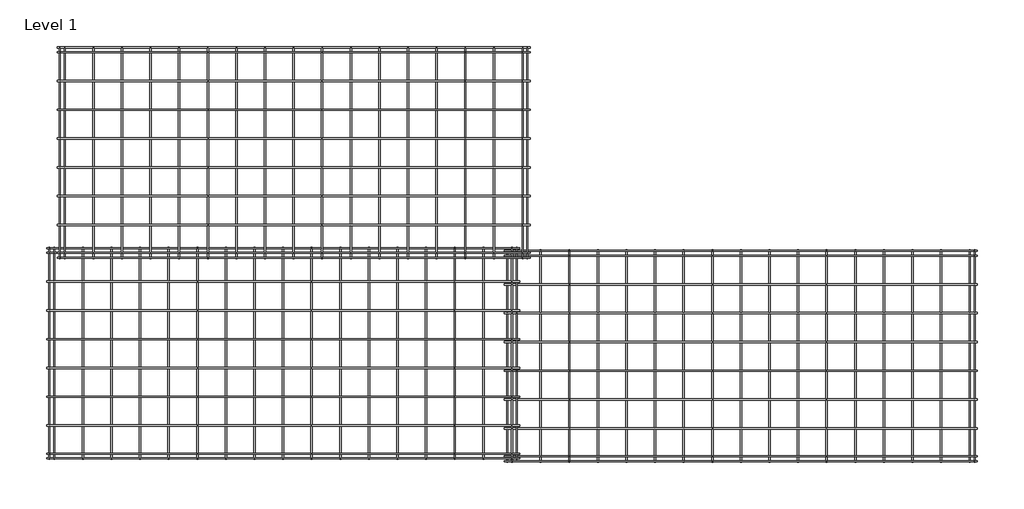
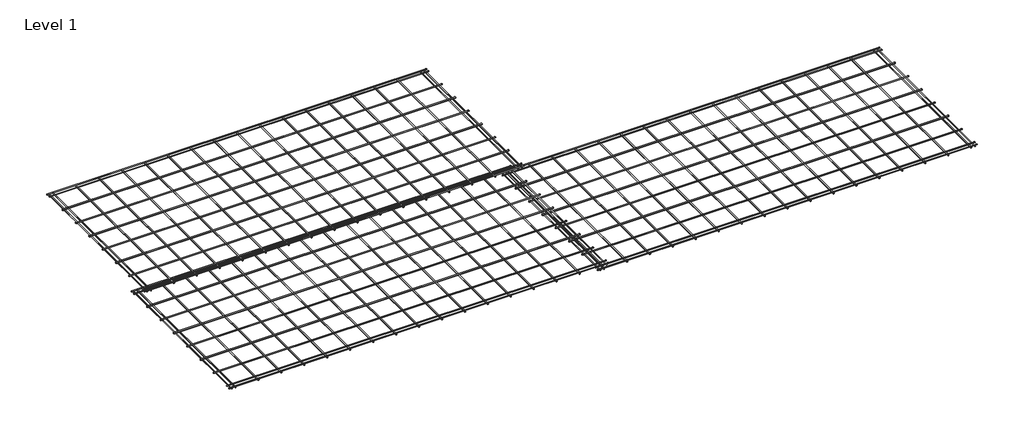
# One storey: 3 proxies.
"""IFC4 building model written with IfcOpenShell, lengths in millimetres."""

import ifcopenshell
import ifcopenshell.guid

model = None  # the IFC model being written
_history = None  # IfcOwnerHistory: only IFC2X3 demands one
_inside = {}  # id of a spatial element -> (the spatial element, [elements in it])
_under = {}  # id of a project, library or spatial element -> (it, [spatial elements below it])
_declared = {}  # id of a project -> (the project, [libraries it declares])
_typed = {}  # id of a type object -> (the type object, [elements of that type])
_made_of = {}  # id of a material, layer set ... -> (it, [elements and type objects made of it])


def new_model(schema):
    """Start an empty IFC model of exactly this schema.

    Asked for "IFC4X3", IfcOpenShell would pick the latest addendum, in which some entities
    have other attributes; the version numbers below select the first issue.
    IFC2X3 requires an IfcOwnerHistory on every rooted entity: one is made here for all.
    """
    global model, _history
    if schema == "IFC4X3":
        model = ifcopenshell.file(schema_version=(4, 3, 0, 0))
    else:
        model = ifcopenshell.file(schema=schema)
    _inside.clear()
    _under.clear()
    _declared.clear()
    _typed.clear()
    _made_of.clear()
    _history = None
    if model.schema == "IFC2X3":
        org = make("IfcOrganization", Name="unknown")
        user = make(
            "IfcPersonAndOrganization",
            ThePerson=make("IfcPerson", FamilyName="unknown"),
            TheOrganization=org,
        )
        app = make(
            "IfcApplication",
            ApplicationDeveloper=org,
            Version="unknown",
            ApplicationFullName="unknown",
            ApplicationIdentifier="unknown",
        )
        _history = make(
            "IfcOwnerHistory",
            OwningUser=user,
            OwningApplication=app,
            ChangeAction="ADDED",
            CreationDate=0,
        )
    return model


def make(cls, **values):
    """One entity of the class cls with the attributes given. An attribute that is None is left unset."""
    return model.create_entity(
        cls, **{name: value for name, value in values.items() if value is not None}
    )


def rooted(cls, **values):
    """An entity with a GlobalId (a new one), such as an element, a storey or a relation."""
    return make(cls, GlobalId=ifcopenshell.guid.new(), OwnerHistory=_history, **values)


def si_unit(unit_type, name, prefix=None):
    """IfcSIUnit, for example si_unit("LENGTHUNIT", "METRE", prefix="MILLI")."""
    return make("IfcSIUnit", UnitType=unit_type, Prefix=prefix, Name=name)


def assignment(units):
    """IfcUnitAssignment: the units of a project."""
    return None if units is None else make("IfcUnitAssignment", Units=units)


def point(xyz):
    """IfcCartesianPoint."""
    return None if xyz is None else make("IfcCartesianPoint", Coordinates=xyz)


def direction(xyz):
    """IfcDirection."""
    return None if xyz is None else make("IfcDirection", DirectionRatios=xyz)


def frame(location, z_axis=None, x_axis=None):
    """IfcAxis2Placement3D, a coordinate frame: its origin and axes. An axis left out is left unset."""
    return make(
        "IfcAxis2Placement3D",
        Location=point(location),
        Axis=direction(z_axis),
        RefDirection=direction(x_axis),
    )


def frame_2d(location, x_axis=None):
    """IfcAxis2Placement2D, a coordinate frame in the plane: its origin and x axis."""
    return make(
        "IfcAxis2Placement2D", Location=point(location), RefDirection=direction(x_axis)
    )


def origin():
    """The frame at (0, 0, 0) with its axes left unset."""
    return frame((0.0, 0.0, 0.0))


def place(relative_to, where):
    """IfcLocalPlacement: puts the frame where relative to a parent placement (None: the world)."""
    return make(
        "IfcLocalPlacement", PlacementRelTo=relative_to, RelativePlacement=where
    )


def context(
    kind, dimensions, precision=None, world=None, true_north=None, identifier=None
):
    """IfcGeometricRepresentationContext, for example the 3D "Model" context."""
    return make(
        "IfcGeometricRepresentationContext",
        ContextIdentifier=identifier,
        ContextType=kind,
        CoordinateSpaceDimension=dimensions,
        Precision=precision,
        WorldCoordinateSystem=world,
        TrueNorth=true_north,
    )


def project(units=None, contexts=None):
    """IfcProject with its units and contexts."""
    return rooted(
        "IfcProject",
        Name="project",
        RepresentationContexts=contexts,
        UnitsInContext=assignment(units),
    )


def spatial(cls, under=None, at=None, **own):
    """A site, building, storey or space (cls), placed at a placement, below another one or the project."""
    s = rooted(cls, ObjectPlacement=at, **own)
    if under is not None:
        _under.setdefault(under.id(), (under, []))[1].append(s)
    return s


def circle_curve(where, radius):
    """IfcCircle in the frame where."""
    return make("IfcCircle", Position=where, Radius=radius)


def trimmed(basis, trim1, trim2, sense, master):
    """IfcTrimmedCurve: the piece of a basis curve between two trims."""
    return make(
        "IfcTrimmedCurve",
        BasisCurve=basis,
        Trim1=trim1,
        Trim2=trim2,
        SenseAgreement=sense,
        MasterRepresentation=master,
    )


def segment(curve, same_sense, transition):
    """IfcCompositeCurveSegment."""
    return make(
        "IfcCompositeCurveSegment",
        Transition=transition,
        SameSense=same_sense,
        ParentCurve=curve,
    )


def composite_curve(segments, self_intersect=None):
    """IfcCompositeCurve: segments joined end to end."""
    return make("IfcCompositeCurve", Segments=segments, SelfIntersect=self_intersect)


def outline(outer, holes=None, kind="AREA"):
    """IfcArbitraryClosedProfileDef: a profile drawn as a closed curve; with holes, ...WithVoids."""
    if holes is None:
        return make("IfcArbitraryClosedProfileDef", ProfileType=kind, OuterCurve=outer)
    return make(
        "IfcArbitraryProfileDefWithVoids",
        ProfileType=kind,
        OuterCurve=outer,
        InnerCurves=holes,
    )


def extrude(swept, where, along, depth):
    """IfcExtrudedAreaSolid: the profile swept, set in the frame where, extruded along a direction by depth."""
    return make(
        "IfcExtrudedAreaSolid",
        SweptArea=swept,
        Position=where,
        ExtrudedDirection=direction(along),
        Depth=depth,
    )


def shape(context_of_items, identifier, shape_type, items):
    """IfcShapeRepresentation: the items that make up one representation, for example the "Body"."""
    return make(
        "IfcShapeRepresentation",
        ContextOfItems=context_of_items,
        RepresentationIdentifier=identifier,
        RepresentationType=shape_type,
        Items=items,
    )


def source(mapping_origin, context_of_items, identifier, shape_type, items):
    """IfcRepresentationMap: a shape defined once, which mapped items show again and again."""
    return make(
        "IfcRepresentationMap",
        MappingOrigin=mapping_origin,
        MappedRepresentation=shape(context_of_items, identifier, shape_type, items),
    )


def transform(
    local_origin,
    x_axis=None,
    y_axis=None,
    z_axis=None,
    scale=None,
    scale2=None,
    scale3=None,
    uniform=True,
):
    """IfcCartesianTransformationOperator3D, or its non-uniform kind. x_axis, y_axis, z_axis: its Axis1, 2, 3."""
    if uniform:
        return make(
            "IfcCartesianTransformationOperator3D",
            Axis1=direction(x_axis),
            Axis2=direction(y_axis),
            LocalOrigin=point(local_origin),
            Scale=scale,
            Axis3=direction(z_axis),
        )
    return make(
        "IfcCartesianTransformationOperator3DnonUniform",
        Axis1=direction(x_axis),
        Axis2=direction(y_axis),
        LocalOrigin=point(local_origin),
        Scale=scale,
        Axis3=direction(z_axis),
        Scale2=scale2,
        Scale3=scale3,
    )


def mapped(mapping_source, mapping_target):
    """IfcMappedItem: shows the shape of a source again, moved by a transform."""
    return make(
        "IfcMappedItem", MappingSource=mapping_source, MappingTarget=mapping_target
    )


def made_of(thing, what):
    """Note that an element or type object is made of a material, layer set ...; save() writes the relation."""
    if what is not None:
        _made_of.setdefault(what.id(), (what, []))[1].append(thing)
    return thing


def element(
    cls,
    number,
    at=None,
    inside=None,
    cuts=None,
    type_object=None,
    material=None,
    context=None,
    identifier="Body",
    shape_type=None,
    held_by="IfcProductDefinitionShape",
    body=None,
    shapes=None,
    **own,
):
    """One element of the class cls, such as IfcWall. Its Tag is "e" and its number.

    at: its placement. inside: the storey or other place that contains it. cuts: it is an
    opening in that element (IfcRelVoidsElement). A single representation is given by context,
    identifier, shape_type and body (its items); several are given by shapes. held_by: the class
    of the entity that holds the representations. save() writes the other relations.
    """
    e = rooted(cls, Tag="e%d" % number, ObjectPlacement=at, **own)
    if body is not None:
        shapes = [shape(context, identifier, shape_type, body)]
    if shapes is not None:
        e.Representation = make(held_by, Representations=shapes)
    if inside is not None:
        _inside.setdefault(inside.id(), (inside, []))[1].append(e)
    if cuts is not None:
        rooted(
            "IfcRelVoidsElement", RelatingBuildingElement=cuts, RelatedOpeningElement=e
        )
    if type_object is not None:
        _typed.setdefault(type_object.id(), (type_object, []))[1].append(e)
    return made_of(e, material)


def aggregate(whole, parts):
    """IfcRelAggregates: a whole, such as a stair, and the parts it consists of."""
    return rooted("IfcRelAggregates", RelatingObject=whole, RelatedObjects=parts)


def save(model, path):
    """Write the relations noted so far, then the file.

    IfcRelAggregates (storeys below a building ...), IfcRelContainedInSpatialStructure (elements
    in a storey), IfcRelDefinesByType, IfcRelAssociatesMaterial and IfcRelDeclares: one each for
    every whole, place, type object, material and project.
    """
    for whole, parts in _under.values():
        aggregate(whole, parts)
    for where, things in _inside.values():
        rooted(
            "IfcRelContainedInSpatialStructure",
            RelatedElements=things,
            RelatingStructure=where,
        )
    for kind, things in _typed.values():
        rooted("IfcRelDefinesByType", RelatedObjects=things, RelatingType=kind)
    for what, things in _made_of.values():
        rooted("IfcRelAssociatesMaterial", RelatedObjects=things, RelatingMaterial=what)
    for by, libraries in _declared.values():
        rooted("IfcRelDeclares", RelatingContext=by, RelatedDefinitions=libraries)
    model.write(path)


def generic_models_3174299a(model_context):
    return source(origin(), model_context, "Body", "SweptSolid", [
        extrude(outline(composite_curve([segment(trimmed(circle_curve(frame_2d((-2159.9992801, 20.220785)), 5.3), [point((-2154.6992801, 20.220785))], [point((-2165.2992801, 20.220785))], False, "CARTESIAN"), True, "CONTINUOUS"), segment(trimmed(circle_curve(frame_2d((-2159.9992801, 20.220785)), 5.3), [point((-2165.2992801, 20.220785))], [point((-2154.6992801, 20.220785))], False, "CARTESIAN"), True, "CONTINUOUS")], self_intersect=False)), frame((-4950.0, 0.0, 0.0), z_axis=(1.0, 0.0, 0.0), x_axis=(0.0, 1.0, 0.0)), (0.0, 0.0, 1.0), 4950.0),
        extrude(outline(composite_curve([segment(trimmed(circle_curve(frame_2d((-2209.9992801, 20.220785)), 5.3), [point((-2204.6992801, 20.220785))], [point((-2215.2992801, 20.220785))], False, "CARTESIAN"), True, "CONTINUOUS"), segment(trimmed(circle_curve(frame_2d((-2209.9992801, 20.220785)), 5.3), [point((-2215.2992801, 20.220785))], [point((-2204.6992801, 20.220785))], False, "CARTESIAN"), True, "CONTINUOUS")], self_intersect=False)), frame((-4950.0, 0.0, 0.0), z_axis=(1.0, 0.0, 0.0), x_axis=(0.0, 1.0, 0.0)), (0.0, 0.0, 1.0), 4950.0),
        extrude(outline(composite_curve([segment(trimmed(circle_curve(frame_2d((9.684424, -4869.9995481)), 5.3), [point((9.684424, -4875.2995481))], [point((9.684424, -4864.6995481))], False, "CARTESIAN"), True, "CONTINUOUS"), segment(trimmed(circle_curve(frame_2d((9.684424, -4869.9995481)), 5.3), [point((9.684424, -4864.6995481))], [point((9.684424, -4875.2995481))], False, "CARTESIAN"), True, "CONTINUOUS")], self_intersect=False)), frame((0.0, -2220.0, 0.0), z_axis=(0.0, 1.0, 0.0), x_axis=(0.0, 0.0, 1.0)), (0.0, 0.0, 1.0), 2220.0),
        extrude(outline(composite_curve([segment(trimmed(circle_curve(frame_2d((9.684424, -4920.0004519)), 5.3), [point((9.684424, -4914.7004519))], [point((9.684424, -4925.3004519))], False, "CARTESIAN"), True, "CONTINUOUS"), segment(trimmed(circle_curve(frame_2d((9.684424, -4920.0004519)), 5.3), [point((9.684424, -4925.3004519))], [point((9.684424, -4914.7004519))], False, "CARTESIAN"), True, "CONTINUOUS")], self_intersect=False)), frame((0.0, -2220.0, 0.0), z_axis=(0.0, 1.0, 0.0), x_axis=(0.0, 0.0, 1.0)), (0.0, 0.0, 1.0), 2220.0),
        extrude(outline(composite_curve([segment(trimmed(circle_curve(frame_2d((-1564.5282591, 22.48641)), 7.5), [point((-1572.0282591, 22.48641))], [point((-1557.0282591, 22.48641))], False, "CARTESIAN"), True, "CONTINUOUS"), segment(trimmed(circle_curve(frame_2d((-1564.5282591, 22.48641)), 7.5), [point((-1557.0282591, 22.48641))], [point((-1572.0282591, 22.48641))], False, "CARTESIAN"), True, "CONTINUOUS")], self_intersect=False)), frame((-4950.0, 0.0, 0.0), z_axis=(1.0, 0.0, 0.0), x_axis=(0.0, 1.0, 0.0)), (0.0, 0.0, 1.0), 4950.0),
        extrude(outline(composite_curve([segment(trimmed(circle_curve(frame_2d((-1263.4565182, 22.48641)), 7.5), [point((-1270.9565182, 22.48641))], [point((-1255.9565182, 22.48641))], False, "CARTESIAN"), True, "CONTINUOUS"), segment(trimmed(circle_curve(frame_2d((-1263.4565182, 22.48641)), 7.5), [point((-1255.9565182, 22.48641))], [point((-1270.9565182, 22.48641))], False, "CARTESIAN"), True, "CONTINUOUS")], self_intersect=False)), frame((-4950.0, 0.0, 0.0), z_axis=(1.0, 0.0, 0.0), x_axis=(0.0, 1.0, 0.0)), (0.0, 0.0, 1.0), 4950.0),
        extrude(outline(composite_curve([segment(trimmed(circle_curve(frame_2d((-962.3847773, 22.48641)), 7.5), [point((-969.8847773, 22.48641))], [point((-954.8847773, 22.48641))], False, "CARTESIAN"), True, "CONTINUOUS"), segment(trimmed(circle_curve(frame_2d((-962.3847773, 22.48641)), 7.5), [point((-954.8847773, 22.48641))], [point((-969.8847773, 22.48641))], False, "CARTESIAN"), True, "CONTINUOUS")], self_intersect=False)), frame((-4950.0, 0.0, 0.0), z_axis=(1.0, 0.0, 0.0), x_axis=(0.0, 1.0, 0.0)), (0.0, 0.0, 1.0), 4950.0),
        extrude(outline(composite_curve([segment(trimmed(circle_curve(frame_2d((-661.3130364, 22.48641)), 7.5), [point((-668.8130364, 22.48641))], [point((-653.8130364, 22.48641))], False, "CARTESIAN"), True, "CONTINUOUS"), segment(trimmed(circle_curve(frame_2d((-661.3130364, 22.48641)), 7.5), [point((-653.8130364, 22.48641))], [point((-668.8130364, 22.48641))], False, "CARTESIAN"), True, "CONTINUOUS")], self_intersect=False)), frame((-4950.0, 0.0, 0.0), z_axis=(1.0, 0.0, 0.0), x_axis=(0.0, 1.0, 0.0)), (0.0, 0.0, 1.0), 4950.0),
        extrude(outline(composite_curve([segment(trimmed(circle_curve(frame_2d((-1865.6, 22.48641)), 7.5), [point((-1873.1, 22.48641))], [point((-1858.1, 22.48641))], False, "CARTESIAN"), True, "CONTINUOUS"), segment(trimmed(circle_curve(frame_2d((-1865.6, 22.48641)), 7.5), [point((-1858.1, 22.48641))], [point((-1873.1, 22.48641))], False, "CARTESIAN"), True, "CONTINUOUS")], self_intersect=False)), frame((-4950.0, 0.0, 0.0), z_axis=(1.0, 0.0, 0.0), x_axis=(0.0, 1.0, 0.0)), (0.0, 0.0, 1.0), 4950.0),
        extrude(outline(composite_curve([segment(trimmed(circle_curve(frame_2d((-60.0007199, 20.220785)), 5.3), [point((-65.3007199, 20.220785))], [point((-54.7007199, 20.220785))], False, "CARTESIAN"), True, "CONTINUOUS"), segment(trimmed(circle_curve(frame_2d((-60.0007199, 20.220785)), 5.3), [point((-54.7007199, 20.220785))], [point((-65.3007199, 20.220785))], False, "CARTESIAN"), True, "CONTINUOUS")], self_intersect=False)), frame((-4950.0, 0.0, 0.0), z_axis=(1.0, 0.0, 0.0), x_axis=(0.0, 1.0, 0.0)), (0.0, 0.0, 1.0), 4950.0),
        extrude(outline(composite_curve([segment(trimmed(circle_curve(frame_2d((7.496924, -4270.7186988)), 7.5), [point((7.496924, -4278.2186988))], [point((7.496924, -4263.2186988))], False, "CARTESIAN"), True, "CONTINUOUS"), segment(trimmed(circle_curve(frame_2d((7.496924, -4270.7186988)), 7.5), [point((7.496924, -4263.2186988))], [point((7.496924, -4278.2186988))], False, "CARTESIAN"), True, "CONTINUOUS")], self_intersect=False)), frame((0.0, -2220.0, 0.0), z_axis=(0.0, 1.0, 0.0), x_axis=(0.0, 0.0, 1.0)), (0.0, 0.0, 1.0), 2220.0),
        extrude(outline(composite_curve([segment(trimmed(circle_curve(frame_2d((7.496924, -3971.4327755)), 7.5), [point((7.496924, -3978.9327755))], [point((7.496924, -3963.9327755))], False, "CARTESIAN"), True, "CONTINUOUS"), segment(trimmed(circle_curve(frame_2d((7.496924, -3971.4327755)), 7.5), [point((7.496924, -3963.9327755))], [point((7.496924, -3978.9327755))], False, "CARTESIAN"), True, "CONTINUOUS")], self_intersect=False)), frame((0.0, -2220.0, 0.0), z_axis=(0.0, 1.0, 0.0), x_axis=(0.0, 0.0, 1.0)), (0.0, 0.0, 1.0), 2220.0),
        extrude(outline(composite_curve([segment(trimmed(circle_curve(frame_2d((7.496924, -3672.1468523)), 7.5), [point((7.496924, -3679.6468523))], [point((7.496924, -3664.6468523))], False, "CARTESIAN"), True, "CONTINUOUS"), segment(trimmed(circle_curve(frame_2d((7.496924, -3672.1468523)), 7.5), [point((7.496924, -3664.6468523))], [point((7.496924, -3679.6468523))], False, "CARTESIAN"), True, "CONTINUOUS")], self_intersect=False)), frame((0.0, -2220.0, 0.0), z_axis=(0.0, 1.0, 0.0), x_axis=(0.0, 0.0, 1.0)), (0.0, 0.0, 1.0), 2220.0),
        extrude(outline(composite_curve([segment(trimmed(circle_curve(frame_2d((7.496924, -3372.8609291)), 7.5), [point((7.496924, -3380.3609291))], [point((7.496924, -3365.3609291))], False, "CARTESIAN"), True, "CONTINUOUS"), segment(trimmed(circle_curve(frame_2d((7.496924, -3372.8609291)), 7.5), [point((7.496924, -3365.3609291))], [point((7.496924, -3380.3609291))], False, "CARTESIAN"), True, "CONTINUOUS")], self_intersect=False)), frame((0.0, -2220.0, 0.0), z_axis=(0.0, 1.0, 0.0), x_axis=(0.0, 0.0, 1.0)), (0.0, 0.0, 1.0), 2220.0),
        extrude(outline(composite_curve([segment(trimmed(circle_curve(frame_2d((7.496924, -3073.5750058)), 7.5), [point((7.496924, -3081.0750058))], [point((7.496924, -3066.0750058))], False, "CARTESIAN"), True, "CONTINUOUS"), segment(trimmed(circle_curve(frame_2d((7.496924, -3073.5750058)), 7.5), [point((7.496924, -3066.0750058))], [point((7.496924, -3081.0750058))], False, "CARTESIAN"), True, "CONTINUOUS")], self_intersect=False)), frame((0.0, -2220.0, 0.0), z_axis=(0.0, 1.0, 0.0), x_axis=(0.0, 0.0, 1.0)), (0.0, 0.0, 1.0), 2220.0),
        extrude(outline(composite_curve([segment(trimmed(circle_curve(frame_2d((7.496924, -2774.2890826)), 7.5), [point((7.496924, -2781.7890826))], [point((7.496924, -2766.7890826))], False, "CARTESIAN"), True, "CONTINUOUS"), segment(trimmed(circle_curve(frame_2d((7.496924, -2774.2890826)), 7.5), [point((7.496924, -2766.7890826))], [point((7.496924, -2781.7890826))], False, "CARTESIAN"), True, "CONTINUOUS")], self_intersect=False)), frame((0.0, -2220.0, 0.0), z_axis=(0.0, 1.0, 0.0), x_axis=(0.0, 0.0, 1.0)), (0.0, 0.0, 1.0), 2220.0),
        extrude(outline(composite_curve([segment(trimmed(circle_curve(frame_2d((7.496924, -2475.0031594)), 7.5), [point((7.496924, -2482.5031594))], [point((7.496924, -2467.5031594))], False, "CARTESIAN"), True, "CONTINUOUS"), segment(trimmed(circle_curve(frame_2d((7.496924, -2475.0031594)), 7.5), [point((7.496924, -2467.5031594))], [point((7.496924, -2482.5031594))], False, "CARTESIAN"), True, "CONTINUOUS")], self_intersect=False)), frame((0.0, -2220.0, 0.0), z_axis=(0.0, 1.0, 0.0), x_axis=(0.0, 0.0, 1.0)), (0.0, 0.0, 1.0), 2220.0),
        extrude(outline(composite_curve([segment(trimmed(circle_curve(frame_2d((7.496924, -2175.7172362)), 7.5), [point((7.496924, -2183.2172362))], [point((7.496924, -2168.2172362))], False, "CARTESIAN"), True, "CONTINUOUS"), segment(trimmed(circle_curve(frame_2d((7.496924, -2175.7172362)), 7.5), [point((7.496924, -2168.2172362))], [point((7.496924, -2183.2172362))], False, "CARTESIAN"), True, "CONTINUOUS")], self_intersect=False)), frame((0.0, -2220.0, 0.0), z_axis=(0.0, 1.0, 0.0), x_axis=(0.0, 0.0, 1.0)), (0.0, 0.0, 1.0), 2220.0),
        extrude(outline(composite_curve([segment(trimmed(circle_curve(frame_2d((7.496924, -1876.4313129)), 7.5), [point((7.496924, -1883.9313129))], [point((7.496924, -1868.9313129))], False, "CARTESIAN"), True, "CONTINUOUS"), segment(trimmed(circle_curve(frame_2d((7.496924, -1876.4313129)), 7.5), [point((7.496924, -1868.9313129))], [point((7.496924, -1883.9313129))], False, "CARTESIAN"), True, "CONTINUOUS")], self_intersect=False)), frame((0.0, -2220.0, 0.0), z_axis=(0.0, 1.0, 0.0), x_axis=(0.0, 0.0, 1.0)), (0.0, 0.0, 1.0), 2220.0),
        extrude(outline(composite_curve([segment(trimmed(circle_curve(frame_2d((7.496924, -1577.1453897)), 7.5), [point((7.496924, -1584.6453897))], [point((7.496924, -1569.6453897))], False, "CARTESIAN"), True, "CONTINUOUS"), segment(trimmed(circle_curve(frame_2d((7.496924, -1577.1453897)), 7.5), [point((7.496924, -1569.6453897))], [point((7.496924, -1584.6453897))], False, "CARTESIAN"), True, "CONTINUOUS")], self_intersect=False)), frame((0.0, -2220.0, 0.0), z_axis=(0.0, 1.0, 0.0), x_axis=(0.0, 0.0, 1.0)), (0.0, 0.0, 1.0), 2220.0),
        extrude(outline(composite_curve([segment(trimmed(circle_curve(frame_2d((7.496924, -1277.8594665)), 7.5), [point((7.496924, -1285.3594665))], [point((7.496924, -1270.3594665))], False, "CARTESIAN"), True, "CONTINUOUS"), segment(trimmed(circle_curve(frame_2d((7.496924, -1277.8594665)), 7.5), [point((7.496924, -1270.3594665))], [point((7.496924, -1285.3594665))], False, "CARTESIAN"), True, "CONTINUOUS")], self_intersect=False)), frame((0.0, -2220.0, 0.0), z_axis=(0.0, 1.0, 0.0), x_axis=(0.0, 0.0, 1.0)), (0.0, 0.0, 1.0), 2220.0),
        extrude(outline(composite_curve([segment(trimmed(circle_curve(frame_2d((7.496924, -978.5735432)), 7.5), [point((7.496924, -986.0735432))], [point((7.496924, -971.0735432))], False, "CARTESIAN"), True, "CONTINUOUS"), segment(trimmed(circle_curve(frame_2d((7.496924, -978.5735432)), 7.5), [point((7.496924, -971.0735432))], [point((7.496924, -986.0735432))], False, "CARTESIAN"), True, "CONTINUOUS")], self_intersect=False)), frame((0.0, -2220.0, 0.0), z_axis=(0.0, 1.0, 0.0), x_axis=(0.0, 0.0, 1.0)), (0.0, 0.0, 1.0), 2220.0),
        extrude(outline(composite_curve([segment(trimmed(circle_curve(frame_2d((7.496924, -679.28762)), 7.5), [point((7.496924, -686.78762))], [point((7.496924, -671.78762))], False, "CARTESIAN"), True, "CONTINUOUS"), segment(trimmed(circle_curve(frame_2d((7.496924, -679.28762)), 7.5), [point((7.496924, -671.78762))], [point((7.496924, -686.78762))], False, "CARTESIAN"), True, "CONTINUOUS")], self_intersect=False)), frame((0.0, -2220.0, 0.0), z_axis=(0.0, 1.0, 0.0), x_axis=(0.0, 0.0, 1.0)), (0.0, 0.0, 1.0), 2220.0),
        extrude(outline(composite_curve([segment(trimmed(circle_curve(frame_2d((7.496924, -4570.004622)), 7.5), [point((7.496924, -4577.504622))], [point((7.496924, -4562.504622))], False, "CARTESIAN"), True, "CONTINUOUS"), segment(trimmed(circle_curve(frame_2d((7.496924, -4570.004622)), 7.5), [point((7.496924, -4562.504622))], [point((7.496924, -4577.504622))], False, "CARTESIAN"), True, "CONTINUOUS")], self_intersect=False)), frame((0.0, -2220.0, 0.0), z_axis=(0.0, 1.0, 0.0), x_axis=(0.0, 0.0, 1.0)), (0.0, 0.0, 1.0), 2220.0),
        extrude(outline(composite_curve([segment(trimmed(circle_curve(frame_2d((9.684424, -80.0004519)), 5.3), [point((9.684424, -74.7004519))], [point((9.684424, -85.3004519))], False, "CARTESIAN"), True, "CONTINUOUS"), segment(trimmed(circle_curve(frame_2d((9.684424, -80.0004519)), 5.3), [point((9.684424, -85.3004519))], [point((9.684424, -74.7004519))], False, "CARTESIAN"), True, "CONTINUOUS")], self_intersect=False)), frame((0.0, -2220.0, 0.0), z_axis=(0.0, 1.0, 0.0), x_axis=(0.0, 0.0, 1.0)), (0.0, 0.0, 1.0), 2220.0),
        extrude(outline(composite_curve([segment(trimmed(circle_curve(frame_2d((-360.2412954, 22.48641)), 7.5), [point((-367.7412954, 22.48641))], [point((-352.7412954, 22.48641))], False, "CARTESIAN"), True, "CONTINUOUS"), segment(trimmed(circle_curve(frame_2d((-360.2412954, 22.48641)), 7.5), [point((-352.7412954, 22.48641))], [point((-367.7412954, 22.48641))], False, "CARTESIAN"), True, "CONTINUOUS")], self_intersect=False)), frame((-4950.0, 0.0, 0.0), z_axis=(1.0, 0.0, 0.0), x_axis=(0.0, 1.0, 0.0)), (0.0, 0.0, 1.0), 4950.0),
        extrude(outline(composite_curve([segment(trimmed(circle_curve(frame_2d((-10.0007199, 20.220785)), 5.3), [point((-15.3007199, 20.220785))], [point((-4.7007199, 20.220785))], False, "CARTESIAN"), True, "CONTINUOUS"), segment(trimmed(circle_curve(frame_2d((-10.0007199, 20.220785)), 5.3), [point((-4.7007199, 20.220785))], [point((-15.3007199, 20.220785))], False, "CARTESIAN"), True, "CONTINUOUS")], self_intersect=False)), frame((-4950.0, 0.0, 0.0), z_axis=(1.0, 0.0, 0.0), x_axis=(0.0, 1.0, 0.0)), (0.0, 0.0, 1.0), 4950.0),
        extrude(outline(composite_curve([segment(trimmed(circle_curve(frame_2d((7.496924, -380.0016968)), 7.5), [point((7.496924, -387.5016968))], [point((7.496924, -372.5016968))], False, "CARTESIAN"), True, "CONTINUOUS"), segment(trimmed(circle_curve(frame_2d((7.496924, -380.0016968)), 7.5), [point((7.496924, -372.5016968))], [point((7.496924, -387.5016968))], False, "CARTESIAN"), True, "CONTINUOUS")], self_intersect=False)), frame((0.0, -2220.0, 0.0), z_axis=(0.0, 1.0, 0.0), x_axis=(0.0, 0.0, 1.0)), (0.0, 0.0, 1.0), 2220.0),
        extrude(outline(composite_curve([segment(trimmed(circle_curve(frame_2d((9.684424, -29.9995481)), 5.3), [point((9.684424, -35.2995481))], [point((9.684424, -24.6995481))], False, "CARTESIAN"), True, "CONTINUOUS"), segment(trimmed(circle_curve(frame_2d((9.684424, -29.9995481)), 5.3), [point((9.684424, -24.6995481))], [point((9.684424, -35.2995481))], False, "CARTESIAN"), True, "CONTINUOUS")], self_intersect=False)), frame((0.0, -2220.0, 0.0), z_axis=(0.0, 1.0, 0.0), x_axis=(0.0, 0.0, 1.0)), (0.0, 0.0, 1.0), 2220.0),
    ])


model = new_model("IFC4")

# Units and contexts
model_context = context("Model", 3, world=origin())
ifc_project = project(units=[si_unit("LENGTHUNIT", "METRE", prefix="MILLI")], contexts=[model_context])

# Site, building, storey
site = spatial("IfcSite", under=ifc_project)
building = spatial("IfcBuilding", under=site)
storey = spatial("IfcBuildingStorey", under=building, Name="Level 1", Elevation=0.0)

# Proxies
placement = place(None, origin())
generic_models_shape = generic_models_3174299a(model_context)
element("IfcBuildingElementProxy", 1, Name="United Steel 147 Double Edge  Mesh : United Steel 147 Double Edge  Mesh", ObjectType="United Steel 147 Double Edge  Mesh : United Steel 147 Double Edge  Mesh", at=placement, inside=storey, context=model_context, shape_type="MappedRepresentation", body=[
    mapped(generic_models_shape, transform((5436.2856589, 2171.3157499, 99.375), x_axis=(1.0, 0.0, 0.0), y_axis=(0.0, 1.0, 0.0), z_axis=(0.0, 0.0, 1.0))),
])
element("IfcBuildingElementProxy", 2, Name="United Steel 147 Double Edge  Mesh : United Steel 147 Double Edge  Mesh", ObjectType="United Steel 147 Double Edge  Mesh : United Steel 147 Double Edge  Mesh", at=placement, inside=storey, context=model_context, shape_type="MappedRepresentation", body=[
    mapped(generic_models_shape, transform((5546.2856589, 4271.2261808, 126.09375), x_axis=(1.0, 0.0, 0.0), y_axis=(0.0, 1.0, 0.0), z_axis=(0.0, 0.0, 1.0))),
])
element("IfcBuildingElementProxy", 3, Name="United Steel 147 Double Edge  Mesh : United Steel 147 Double Edge  Mesh", ObjectType="United Steel 147 Double Edge  Mesh : United Steel 147 Double Edge  Mesh", at=placement, inside=storey, context=model_context, shape_type="MappedRepresentation", body=[
    mapped(generic_models_shape, transform((10226.1955059, 2142.5757703, 73.8085938), x_axis=(1.0, 0.0, 0.0), y_axis=(0.0, 1.0, 0.0), z_axis=(0.0, 0.0, 1.0))),
])

save(model, "model.ifc")
